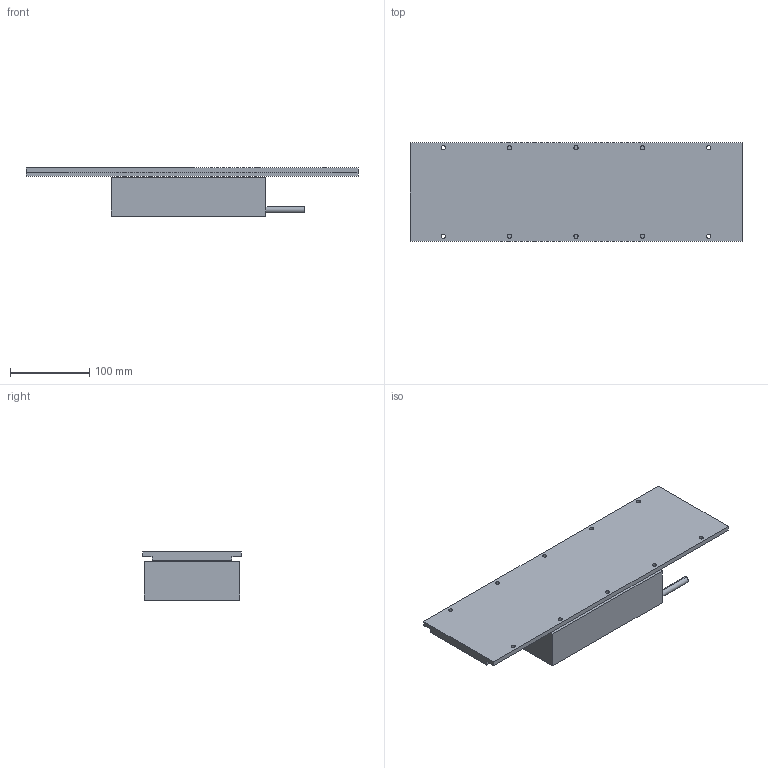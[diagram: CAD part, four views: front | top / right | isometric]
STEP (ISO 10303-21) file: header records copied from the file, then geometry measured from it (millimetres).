
FILE_DESCRIPTION (( 'STEP AP214' ), '1' );
FILE_NAME ('FLM-121-196蚾饜极.STEP', '2022-05-12T08:06:32', ( 'Microsoft' ), ( 'Microsoft' ), 'SwSTEP 2.0', 'SolidWorks 2016', '' );
FILE_SCHEMA (( 'AUTOMOTIVE_DESIGN' ));
Length unit declared in the file: millimetre
Products named in the file (3): FLM-121-196; FLM-121-196蚾饜极; TLM-125-L420
Assembly tree (2 placements, depth 2):
  FLM-121-196蚾饜极
    FLM-121-196
    TLM-125-L420
Bounding box: 420 x 125 x 61.1 mm (x, y, z)
Volume: 1687041.9 mm3; surface area: 198554 mm2
Topology: 2 solids, 2 shells, 177 faces, 414 edges, 234 vertices
Faces by surface type: cylinder 78, cone 72, plane 27
Entity records: 5338 total; most frequent: DIRECTION 934, CARTESIAN_POINT 794, ORIENTED_EDGE 756, EDGE_CURVE 378, AXIS2_PLACEMENT_3D 374, VERTEX_POINT 234, EDGE_LOOP 226, CIRCLE 192
